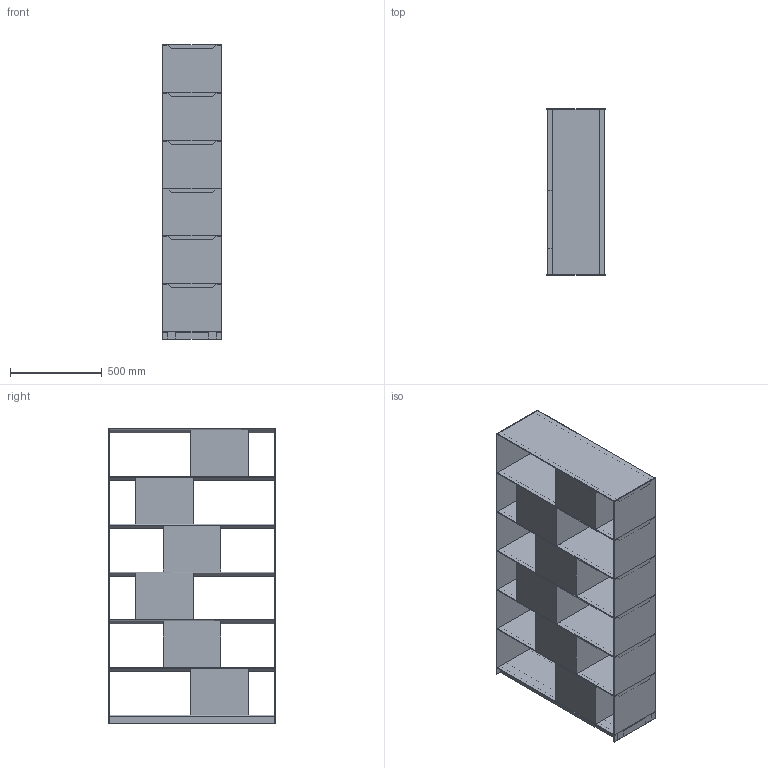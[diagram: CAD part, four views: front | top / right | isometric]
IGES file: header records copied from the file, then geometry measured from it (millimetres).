
Start section: Comment
Global section: file name: Stack - 090 x 160.igs; native system:  By UGS Corp.; preprocessor: XPlus GENERIC/IGES 3.0; author: Author; organization: Title; date: 20141016.143830; units: inch
Bounding box: 319 x 905 x 1603 mm (x, y, z)
Surface area: 8983616.7 mm2 (no closed solid volume)
Topology: 0 solids, 0 shells, 190 faces, 936 edges, 936 vertices
Faces by surface type: bspline 190
